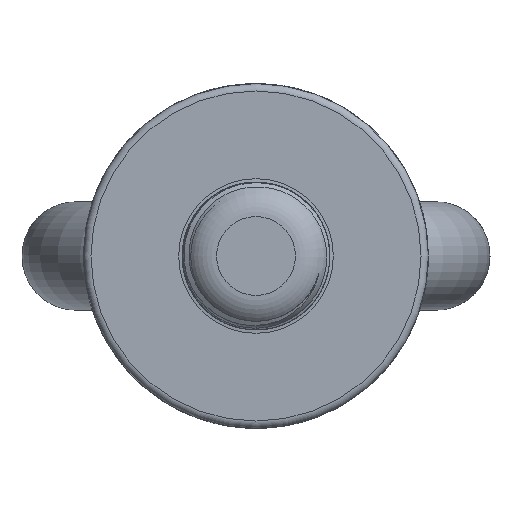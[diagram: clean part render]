
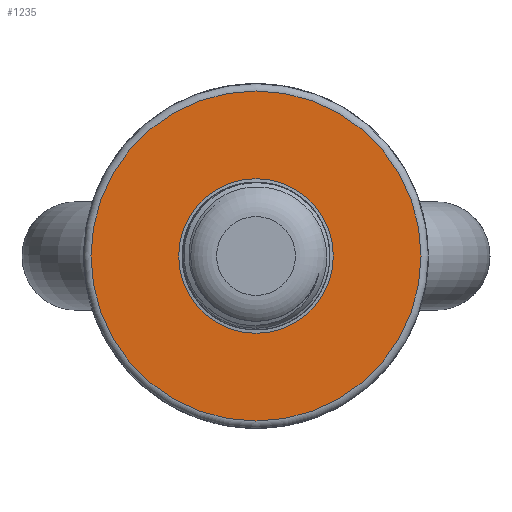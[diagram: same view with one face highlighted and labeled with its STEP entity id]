
A CAD part, front view. The second image highlights one B-rep face of the part: STEP entity #1235.
In plain terms, the highlighted planar face has unit normal (0, -1, 0).
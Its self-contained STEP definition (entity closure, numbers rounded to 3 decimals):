
#459=PLANE('',#4872);
#1235=ADVANCED_FACE('',(#1704,#1705),#459,.F.);
#1543=CIRCLE('',#4869,33.5);
#1544=CIRCLE('',#4871,15.7);
#1704=FACE_BOUND('',#1772,.T.);
#1705=FACE_BOUND('',#1773,.T.);
#1772=EDGE_LOOP('',(#2214));
#1773=EDGE_LOOP('',(#2215));
#2214=ORIENTED_EDGE('',*,*,#4007,.F.);
#2215=ORIENTED_EDGE('',*,*,#4006,.T.);
#3554=VERTEX_POINT('',#6886);
#3555=VERTEX_POINT('',#6889);
#4006=EDGE_CURVE('',#3554,#3554,#1543,.T.);
#4007=EDGE_CURVE('',#3555,#3555,#1544,.T.);
#4869=AXIS2_PLACEMENT_3D('',#6885,#5313,#5314);
#4871=AXIS2_PLACEMENT_3D('',#6888,#5317,#5318);
#4872=AXIS2_PLACEMENT_3D('',#6890,#5319,#5320);
#5313=DIRECTION('',(0.,-1.,0.));
#5314=DIRECTION('',(1.,0.,0.));
#5317=DIRECTION('',(0.,-1.,0.));
#5318=DIRECTION('',(1.,0.,0.));
#5319=DIRECTION('',(0.,1.,0.));
#5320=DIRECTION('',(-1.,0.,0.));
#6885=CARTESIAN_POINT('',(0.,-12.4,0.));
#6886=CARTESIAN_POINT('',(33.5,-12.4,0.));
#6888=CARTESIAN_POINT('',(0.,-12.4,0.));
#6889=CARTESIAN_POINT('',(15.7,-12.4,0.));
#6890=CARTESIAN_POINT('',(33.5,-12.4,0.));
